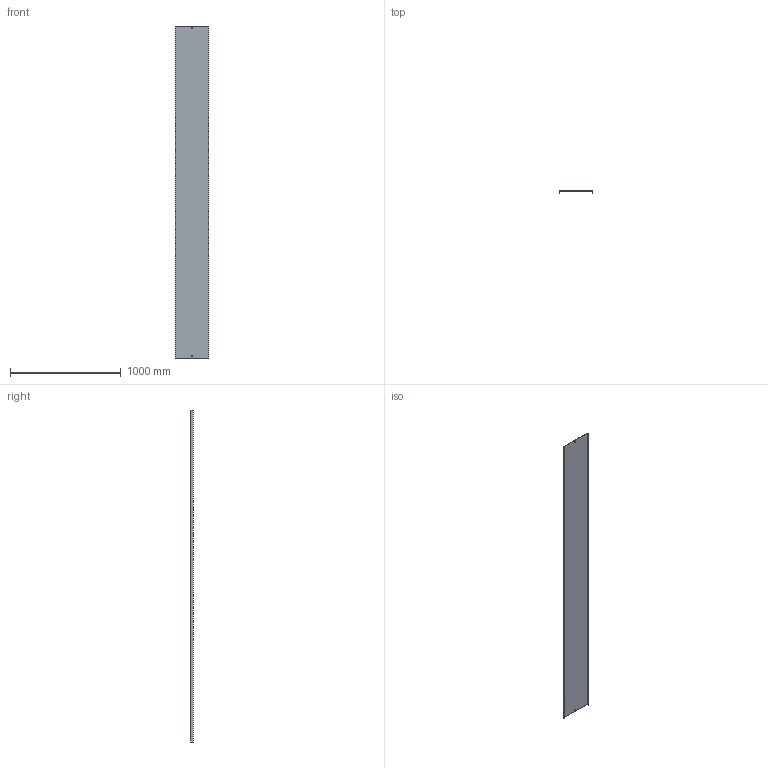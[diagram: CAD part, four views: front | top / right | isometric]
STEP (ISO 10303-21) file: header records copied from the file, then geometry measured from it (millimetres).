
FILE_DESCRIPTION (( 'STEP AP214' ), '1' );
FILE_NAME ('05N3R300.step', '2025-02-21T09:59:32', ( '' ), ( '' ), 'SwSTEP 2.0', 'SolidWorks 2023', '' );
FILE_SCHEMA (( 'AUTOMOTIVE_DESIGN' ));
Length unit declared in the file: millimetre
Products named in the file (1): 05N3R300
Bounding box: 307 x 20 x 3000 mm (x, y, z)
Volume: 1547824.5 mm3; surface area: 2073891 mm2
Topology: 1 solids, 1 shells, 18 faces, 48 edges, 32 vertices
Faces by surface type: plane 18
Entity records: 583 total; most frequent: CARTESIAN_POINT 99, ORIENTED_EDGE 96, DIRECTION 86, VECTOR 48, LINE 48, EDGE_CURVE 48, VERTEX_POINT 32, EDGE_LOOP 22
